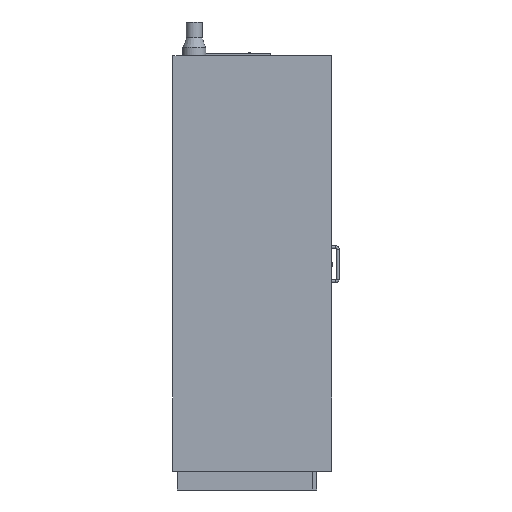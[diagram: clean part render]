
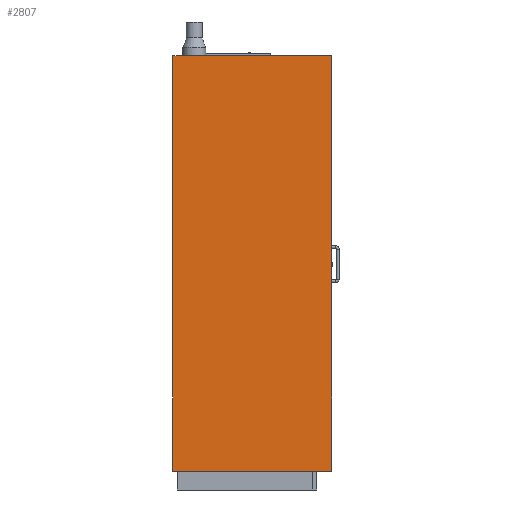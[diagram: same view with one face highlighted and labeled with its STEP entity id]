
A CAD part, left-side view. The second image highlights one B-rep face of the part: STEP entity #2807.
In plain terms, the highlighted planar face has unit normal (-1, 0, 0).
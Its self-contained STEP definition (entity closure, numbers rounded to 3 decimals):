
#525=ORIENTED_EDGE('',*,*,#861,.T.);
#526=ORIENTED_EDGE('',*,*,#862,.F.);
#527=ORIENTED_EDGE('',*,*,#863,.F.);
#528=ORIENTED_EDGE('',*,*,#812,.F.);
#529=ORIENTED_EDGE('',*,*,#844,.F.);
#530=ORIENTED_EDGE('',*,*,#864,.F.);
#531=ORIENTED_EDGE('',*,*,#849,.F.);
#532=ORIENTED_EDGE('',*,*,#804,.T.);
#804=EDGE_CURVE('',#1009,#1010,#1190,.T.);
#812=EDGE_CURVE('',#1017,#1018,#1198,.T.);
#844=EDGE_CURVE('',#1043,#1017,#1227,.T.);
#849=EDGE_CURVE('',#1009,#1046,#1232,.T.);
#861=EDGE_CURVE('',#1010,#1052,#1244,.T.);
#862=EDGE_CURVE('',#1053,#1052,#1245,.T.);
#863=EDGE_CURVE('',#1018,#1053,#1246,.T.);
#864=EDGE_CURVE('',#1046,#1043,#1247,.T.);
#1009=VERTEX_POINT('',#3947);
#1010=VERTEX_POINT('',#3948);
#1017=VERTEX_POINT('',#3964);
#1018=VERTEX_POINT('',#3965);
#1043=VERTEX_POINT('',#4034);
#1046=VERTEX_POINT('',#4041);
#1052=VERTEX_POINT('',#4066);
#1053=VERTEX_POINT('',#4070);
#1190=LINE('',#3946,#1390);
#1198=LINE('',#3963,#1398);
#1227=LINE('',#4033,#1427);
#1232=LINE('',#4043,#1432);
#1244=LINE('',#4067,#1444);
#1245=LINE('',#4069,#1445);
#1246=LINE('',#4071,#1446);
#1247=LINE('',#4072,#1447);
#1390=VECTOR('',#3406,1000.);
#1398=VECTOR('',#3416,1000.);
#1427=VECTOR('',#3475,1000.);
#1432=VECTOR('',#3482,1000.);
#1444=VECTOR('',#3506,1000.);
#1445=VECTOR('',#3509,1000.);
#1446=VECTOR('',#3510,1000.);
#1447=VECTOR('',#3511,1000.);
#1599=EDGE_LOOP('',(#525,#526,#527,#528,#529,#530,#531,#532));
#1761=FACE_BOUND('',#1599,.T.);
#1862=PLANE('',#2985);
#2807=ADVANCED_FACE('',(#1761),#1862,.F.);
#2985=AXIS2_PLACEMENT_3D('',#4068,#3507,#3508);
#3406=DIRECTION('',(0.,1.,0.));
#3416=DIRECTION('',(0.,1.,0.));
#3475=DIRECTION('',(0.,0.,-1.));
#3482=DIRECTION('',(0.,0.,1.));
#3506=DIRECTION('',(0.,0.,1.));
#3507=DIRECTION('',(1.,0.,0.));
#3508=DIRECTION('',(0.,0.,-1.));
#3509=DIRECTION('',(0.,-1.,0.));
#3510=DIRECTION('',(0.,0.,1.));
#3511=DIRECTION('',(0.,-1.,0.));
#3946=CARTESIAN_POINT('',(150.,564.,1954.5));
#3947=CARTESIAN_POINT('',(150.,564.,1954.5));
#3948=CARTESIAN_POINT('',(150.,583.,1954.5));
#3963=CARTESIAN_POINT('',(150.,0.,0.));
#3964=CARTESIAN_POINT('',(150.,-135.,0.));
#3965=CARTESIAN_POINT('',(150.,612.,0.));
#4033=CARTESIAN_POINT('',(150.,-135.,1956.));
#4034=CARTESIAN_POINT('',(150.,-135.,1956.));
#4041=CARTESIAN_POINT('',(150.,564.,1956.));
#4043=CARTESIAN_POINT('',(150.,564.,1954.5));
#4066=CARTESIAN_POINT('',(150.,583.,1956.));
#4067=CARTESIAN_POINT('',(150.,583.,1954.5));
#4068=CARTESIAN_POINT('',(150.,0.,0.));
#4069=CARTESIAN_POINT('',(150.,612.,1956.));
#4070=CARTESIAN_POINT('',(150.,612.,1956.));
#4071=CARTESIAN_POINT('',(150.,612.,0.));
#4072=CARTESIAN_POINT('',(150.,612.,1956.));
